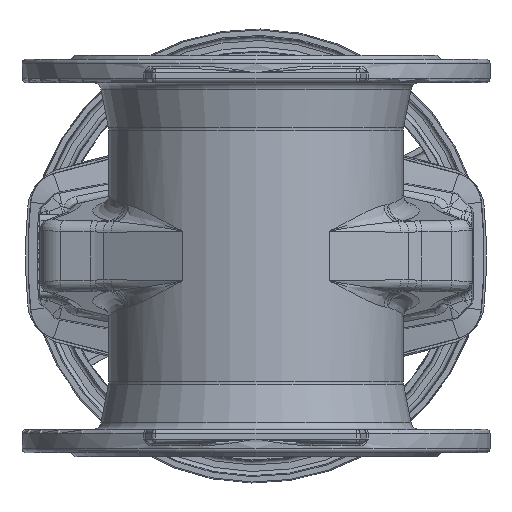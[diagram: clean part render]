
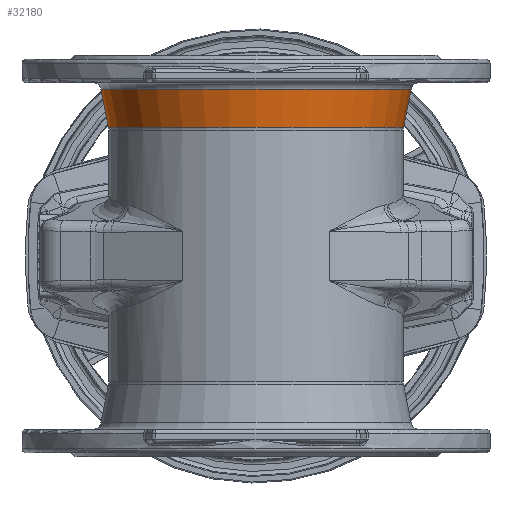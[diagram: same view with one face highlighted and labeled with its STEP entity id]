
A CAD part, front view. The second image highlights one B-rep face of the part: STEP entity #32180.
In plain terms, the highlighted conical face has half-angle 11 degrees and reference radius 112.61 mm.
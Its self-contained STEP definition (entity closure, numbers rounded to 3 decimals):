
#2093 = FACE_BOUND ( 'NONE', #34486, .T. ) ;
#2101 = FACE_OUTER_BOUND ( 'NONE', #34448, .T. ) ;
#2110 = CONICAL_SURFACE ( 'NONE', #32382, 112.61, 0.192 ) ;
#5556 = AXIS2_PLACEMENT_3D ( 'NONE', #12256, #12257, #12258 ) ;
#5558 = AXIS2_PLACEMENT_3D ( 'NONE', #12264, #12265, #12266 ) ;
#9603 = CIRCLE ( 'NONE', #5556, 112.61 ) ;
#9606 = CIRCLE ( 'NONE', #5558, 107.22 ) ;
#12256 = CARTESIAN_POINT ( 'NONE',  ( 0., 0., 121.145 ) ) ;
#12257 = DIRECTION ( 'NONE',  ( 0., 0., 1. ) ) ;
#12258 = DIRECTION ( 'NONE',  ( 1., 0., 0. ) ) ;
#12264 = CARTESIAN_POINT ( 'NONE',  ( 0., 0., 93.417 ) ) ;
#12265 = DIRECTION ( 'NONE',  ( 0., 0., 1. ) ) ;
#12266 = DIRECTION ( 'NONE',  ( 1., 0., 0. ) ) ;
#13945 = EDGE_CURVE ( 'NONE', #26935, #26935, #9603, .T. ) ;
#13947 = EDGE_CURVE ( 'NONE', #26936, #26936, #9606, .T. ) ;
#19952 = ORIENTED_EDGE ( 'NONE', *, *, #13947, .T. ) ;
#20021 = ORIENTED_EDGE ( 'NONE', *, *, #13945, .F. ) ;
#22988 = DIRECTION ( 'NONE',  ( 1., 0., 0. ) ) ;
#22990 = CARTESIAN_POINT ( 'NONE',  ( 0., 0., 121.145 ) ) ;
#22991 = DIRECTION ( 'NONE',  ( 0., 0., 1. ) ) ;
#26935 = VERTEX_POINT ( 'NONE', #28218 ) ;
#26936 = VERTEX_POINT ( 'NONE', #28220 ) ;
#28218 = CARTESIAN_POINT ( 'NONE',  ( 112.61, 0., 121.145 ) ) ;
#28220 = CARTESIAN_POINT ( 'NONE',  ( 107.22, 0., 93.417 ) ) ;
#32180 = ADVANCED_FACE ( 'NONE', ( #2093, #2101 ), #2110, .T. ) ;
#32382 = AXIS2_PLACEMENT_3D ( 'NONE', #22990, #22991, #22988 ) ;
#34448 = EDGE_LOOP ( 'NONE', ( #20021 ) ) ;
#34486 = EDGE_LOOP ( 'NONE', ( #19952 ) ) ;
